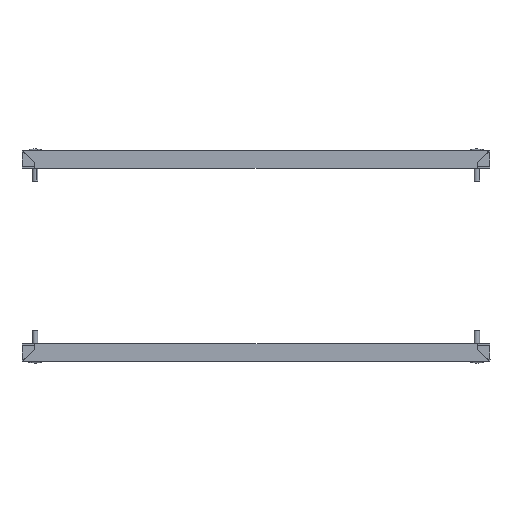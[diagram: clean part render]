
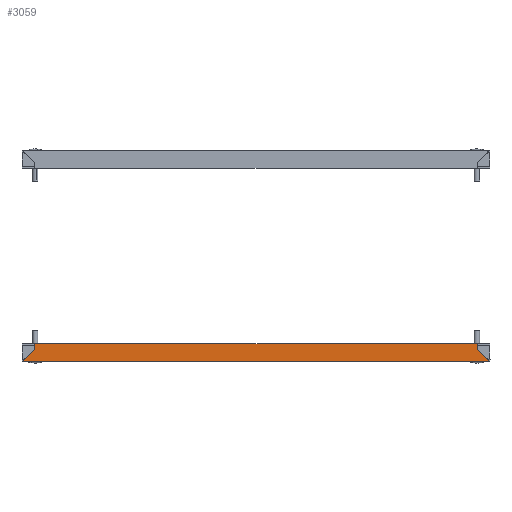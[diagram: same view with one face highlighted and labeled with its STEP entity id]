
A CAD part, front view. The second image highlights one B-rep face of the part: STEP entity #3059.
In plain terms, the highlighted planar face has unit normal (0, -1, 0).
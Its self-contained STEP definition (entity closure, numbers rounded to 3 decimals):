
#37 = CARTESIAN_POINT ( 'NONE',  ( 0., -50., 0. ) ) ;
#136 = CARTESIAN_POINT ( 'NONE',  ( -236., -50., 11.646 ) ) ;
#173 = VECTOR ( 'NONE', #8618, 1000. ) ;
#247 = B_SPLINE_CURVE_WITH_KNOTS ( 'NONE', 3,
 ( #4772, #8789, #7160, #292, #3361, #4016 ),
 .UNSPECIFIED., .F., .F.,
 ( 4, 2, 4 ),
 ( 0.005, 0.006, 0.008 ),
 .UNSPECIFIED. ) ;
#292 = CARTESIAN_POINT ( 'NONE',  ( -247.181, -50., -0.799 ) ) ;
#906 = PLANE ( 'NONE',  #2917 ) ;
#924 = DIRECTION ( 'NONE',  ( 0.707, 0., -0.707 ) ) ;
#1436 = ORIENTED_EDGE ( 'NONE', *, *, #9427, .T. ) ;
#1461 = DIRECTION ( 'NONE',  ( 0.707, 0., 0.707 ) ) ;
#1476 = VECTOR ( 'NONE', #7667, 1000. ) ;
#1895 = VERTEX_POINT ( 'NONE', #8783 ) ;
#2197 = CARTESIAN_POINT ( 'NONE',  ( 247.204, -50., -1.149 ) ) ;
#2213 = CARTESIAN_POINT ( 'NONE',  ( 0., -50., 17.5 ) ) ;
#2275 = ORIENTED_EDGE ( 'NONE', *, *, #6908, .T. ) ;
#2294 = CARTESIAN_POINT ( 'NONE',  ( -236., -50., 11.646 ) ) ;
#2381 = LINE ( 'NONE', #7798, #6325 ) ;
#2431 = LINE ( 'NONE', #9216, #173 ) ;
#2435 = ORIENTED_EDGE ( 'NONE', *, *, #9206, .T. ) ;
#2485 = VECTOR ( 'NONE', #3190, 1000. ) ;
#2487 = CARTESIAN_POINT ( 'NONE',  ( -247.223, -50., -1.5 ) ) ;
#2592 = VERTEX_POINT ( 'NONE', #7547 ) ;
#2782 = LINE ( 'NONE', #2213, #1476 ) ;
#2887 = VERTEX_POINT ( 'NONE', #7331 ) ;
#2917 = AXIS2_PLACEMENT_3D ( 'NONE', #37, #8548, #3118 ) ;
#2999 = ORIENTED_EDGE ( 'NONE', *, *, #4423, .F. ) ;
#3059 = ADVANCED_FACE ( 'NONE', ( #7627 ), #906, .F. ) ;
#3080 = B_SPLINE_CURVE_WITH_KNOTS ( 'NONE', 3,
 ( #4222, #8830, #9638, #3612, #2197, #5954 ),
 .UNSPECIFIED., .F., .F.,
 ( 4, 2, 4 ),
 ( 0.005, 0.006, 0.008 ),
 .UNSPECIFIED. ) ;
#3118 = DIRECTION ( 'NONE',  ( 0., 0., 1. ) ) ;
#3190 = DIRECTION ( 'NONE',  ( 1., 0., 0. ) ) ;
#3277 = CARTESIAN_POINT ( 'NONE',  ( 236., -50., 11.646 ) ) ;
#3361 = CARTESIAN_POINT ( 'NONE',  ( -247.204, -50., -1.149 ) ) ;
#3612 = CARTESIAN_POINT ( 'NONE',  ( 247.181, -50., -0.799 ) ) ;
#4016 = CARTESIAN_POINT ( 'NONE',  ( -247.223, -50., -1.5 ) ) ;
#4090 = ORIENTED_EDGE ( 'NONE', *, *, #6409, .T. ) ;
#4222 = CARTESIAN_POINT ( 'NONE',  ( 247.046, -50., 0.6 ) ) ;
#4423 = EDGE_CURVE ( 'NONE', #2887, #4672, #3080, .T. ) ;
#4450 = VECTOR ( 'NONE', #1461, 1000. ) ;
#4672 = VERTEX_POINT ( 'NONE', #4757 ) ;
#4704 = VERTEX_POINT ( 'NONE', #2487 ) ;
#4757 = CARTESIAN_POINT ( 'NONE',  ( 247.223, -50., -1.5 ) ) ;
#4772 = CARTESIAN_POINT ( 'NONE',  ( -247.046, -50., 0.6 ) ) ;
#5355 = DIRECTION ( 'NONE',  ( 0., 0., -1. ) ) ;
#5376 = CARTESIAN_POINT ( 'NONE',  ( -247.046, -50., 0.6 ) ) ;
#5377 = EDGE_CURVE ( 'NONE', #1895, #2592, #2782, .T. ) ;
#5877 = VECTOR ( 'NONE', #5355, 1000. ) ;
#5954 = CARTESIAN_POINT ( 'NONE',  ( 247.223, -50., -1.5 ) ) ;
#6010 = EDGE_CURVE ( 'NONE', #8737, #9382, #6268, .T. ) ;
#6094 = LINE ( 'NONE', #2294, #5877 ) ;
#6183 = LINE ( 'NONE', #6234, #2485 ) ;
#6216 = EDGE_LOOP ( 'NONE', ( #6978, #2275, #6428, #4090, #9627, #1436, #2435, #2999 ) ) ;
#6234 = CARTESIAN_POINT ( 'NONE',  ( 0., -50., -1.5 ) ) ;
#6268 = LINE ( 'NONE', #5376, #4450 ) ;
#6325 = VECTOR ( 'NONE', #924, 1000. ) ;
#6409 = EDGE_CURVE ( 'NONE', #2592, #9382, #6094, .T. ) ;
#6428 = ORIENTED_EDGE ( 'NONE', *, *, #5377, .T. ) ;
#6908 = EDGE_CURVE ( 'NONE', #7528, #1895, #2431, .T. ) ;
#6978 = ORIENTED_EDGE ( 'NONE', *, *, #9274, .F. ) ;
#7160 = CARTESIAN_POINT ( 'NONE',  ( -247.121, -50., -0.099 ) ) ;
#7331 = CARTESIAN_POINT ( 'NONE',  ( 247.046, -50., 0.6 ) ) ;
#7528 = VERTEX_POINT ( 'NONE', #3277 ) ;
#7547 = CARTESIAN_POINT ( 'NONE',  ( -236., -50., 17.5 ) ) ;
#7627 = FACE_OUTER_BOUND ( 'NONE', #6216, .T. ) ;
#7667 = DIRECTION ( 'NONE',  ( -1., 0., 0. ) ) ;
#7798 = CARTESIAN_POINT ( 'NONE',  ( -102.536, -50., 350.182 ) ) ;
#8548 = DIRECTION ( 'NONE',  ( 0., 1., 0. ) ) ;
#8618 = DIRECTION ( 'NONE',  ( 0., 0., 1. ) ) ;
#8737 = VERTEX_POINT ( 'NONE', #9345 ) ;
#8783 = CARTESIAN_POINT ( 'NONE',  ( 236., -50., 17.5 ) ) ;
#8789 = CARTESIAN_POINT ( 'NONE',  ( -247.084, -50., 0.251 ) ) ;
#8830 = CARTESIAN_POINT ( 'NONE',  ( 247.084, -50., 0.251 ) ) ;
#9206 = EDGE_CURVE ( 'NONE', #4704, #4672, #6183, .T. ) ;
#9216 = CARTESIAN_POINT ( 'NONE',  ( 236., -50., 11.646 ) ) ;
#9274 = EDGE_CURVE ( 'NONE', #7528, #2887, #2381, .T. ) ;
#9345 = CARTESIAN_POINT ( 'NONE',  ( -247.046, -50., 0.6 ) ) ;
#9382 = VERTEX_POINT ( 'NONE', #136 ) ;
#9427 = EDGE_CURVE ( 'NONE', #8737, #4704, #247, .T. ) ;
#9627 = ORIENTED_EDGE ( 'NONE', *, *, #6010, .F. ) ;
#9638 = CARTESIAN_POINT ( 'NONE',  ( 247.121, -50., -0.099 ) ) ;
